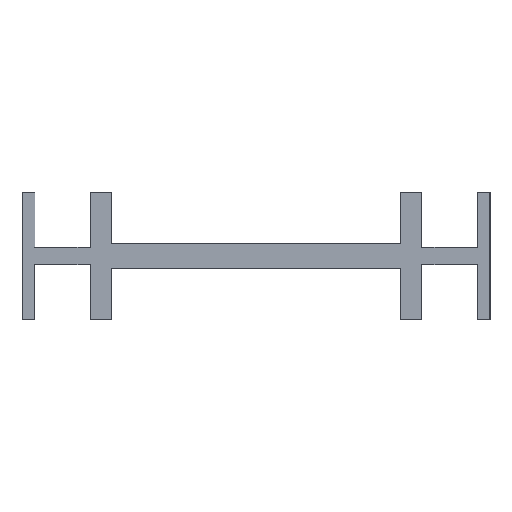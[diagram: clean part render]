
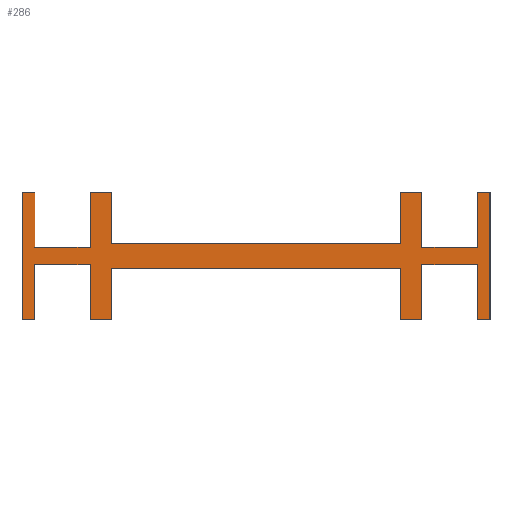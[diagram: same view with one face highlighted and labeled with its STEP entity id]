
A CAD part, left-side view. The second image highlights one B-rep face of the part: STEP entity #286.
In plain terms, the highlighted planar face has unit normal (-1, 0, 0).
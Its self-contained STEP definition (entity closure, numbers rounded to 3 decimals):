
#286=ADVANCED_FACE('',(#578),#579,.F.);
#578=FACE_OUTER_BOUND('',#861,.T.);
#579=PLANE('',#862);
#861=EDGE_LOOP('',(#1669,#1670,#1671,#1672,#1673,#1674,#1675,#1676,#1677,#1678,#1679,#1680,#1681,#1682,#1683,#1684,#1685,#1686,#1687,#1688,#1689,#1690,#1691,#1692,#1693,#1694,#1695,#1696,#1697,#1698,#1699,#1700));
#862=AXIS2_PLACEMENT_3D('',#1701,#1702,#1703);
#1669=ORIENTED_EDGE('',*,*,#1990,.T.);
#1670=ORIENTED_EDGE('',*,*,#1993,.T.);
#1671=ORIENTED_EDGE('',*,*,#2029,.T.);
#1672=ORIENTED_EDGE('',*,*,#2032,.T.);
#1673=ORIENTED_EDGE('',*,*,#2034,.T.);
#1674=ORIENTED_EDGE('',*,*,#2025,.T.);
#1675=ORIENTED_EDGE('',*,*,#1996,.F.);
#1676=ORIENTED_EDGE('',*,*,#2000,.F.);
#1677=ORIENTED_EDGE('',*,*,#2009,.F.);
#1678=ORIENTED_EDGE('',*,*,#2006,.F.);
#1679=ORIENTED_EDGE('',*,*,#2003,.F.);
#1680=ORIENTED_EDGE('',*,*,#2012,.F.);
#1681=ORIENTED_EDGE('',*,*,#2023,.F.);
#1682=ORIENTED_EDGE('',*,*,#2018,.F.);
#1683=ORIENTED_EDGE('',*,*,#2021,.F.);
#1684=ORIENTED_EDGE('',*,*,#2014,.F.);
#1685=ORIENTED_EDGE('',*,*,#1956,.F.);
#1686=ORIENTED_EDGE('',*,*,#1960,.F.);
#1687=ORIENTED_EDGE('',*,*,#1963,.F.);
#1688=ORIENTED_EDGE('',*,*,#1966,.F.);
#1689=ORIENTED_EDGE('',*,*,#1969,.F.);
#1690=ORIENTED_EDGE('',*,*,#1972,.T.);
#1691=ORIENTED_EDGE('',*,*,#1975,.T.);
#1692=ORIENTED_EDGE('',*,*,#1978,.T.);
#1693=ORIENTED_EDGE('',*,*,#1980,.T.);
#1694=ORIENTED_EDGE('',*,*,#1814,.T.);
#1695=ORIENTED_EDGE('',*,*,#1810,.T.);
#1696=ORIENTED_EDGE('',*,*,#1797,.T.);
#1697=ORIENTED_EDGE('',*,*,#1812,.F.);
#1698=ORIENTED_EDGE('',*,*,#1768,.T.);
#1699=ORIENTED_EDGE('',*,*,#1984,.T.);
#1700=ORIENTED_EDGE('',*,*,#1987,.T.);
#1701=CARTESIAN_POINT('',(0.0,26.75,7.5));
#1702=DIRECTION('',(1.0,0.,0.));
#1703=DIRECTION('',(0.,-1.0,0.0));
#1768=EDGE_CURVE('',#2110,#2137,#2139,.T.);
#1797=EDGE_CURVE('',#2183,#2181,#2184,.T.);
#1810=EDGE_CURVE('',#2198,#2183,#2201,.T.);
#1812=EDGE_CURVE('',#2110,#2181,#2203,.T.);
#1814=EDGE_CURVE('',#2205,#2198,#2206,.T.);
#1956=EDGE_CURVE('',#2423,#2425,#2426,.T.);
#1960=EDGE_CURVE('',#2429,#2423,#2431,.T.);
#1963=EDGE_CURVE('',#2433,#2429,#2435,.T.);
#1966=EDGE_CURVE('',#2437,#2433,#2439,.T.);
#1969=EDGE_CURVE('',#2441,#2437,#2443,.T.);
#1972=EDGE_CURVE('',#2441,#2445,#2447,.T.);
#1975=EDGE_CURVE('',#2445,#2449,#2451,.T.);
#1978=EDGE_CURVE('',#2449,#2453,#2455,.T.);
#1980=EDGE_CURVE('',#2453,#2205,#2457,.T.);
#1984=EDGE_CURVE('',#2137,#2460,#2462,.T.);
#1987=EDGE_CURVE('',#2460,#2464,#2466,.T.);
#1990=EDGE_CURVE('',#2464,#2468,#2470,.T.);
#1993=EDGE_CURVE('',#2468,#2472,#2474,.T.);
#1996=EDGE_CURVE('',#2476,#2478,#2479,.T.);
#2000=EDGE_CURVE('',#2482,#2476,#2484,.T.);
#2003=EDGE_CURVE('',#2486,#2488,#2489,.T.);
#2006=EDGE_CURVE('',#2488,#2492,#2493,.T.);
#2009=EDGE_CURVE('',#2492,#2482,#2496,.T.);
#2012=EDGE_CURVE('',#2498,#2486,#2500,.T.);
#2014=EDGE_CURVE('',#2425,#2502,#2503,.T.);
#2018=EDGE_CURVE('',#2506,#2508,#2509,.T.);
#2021=EDGE_CURVE('',#2502,#2506,#2512,.T.);
#2023=EDGE_CURVE('',#2508,#2498,#2514,.T.);
#2025=EDGE_CURVE('',#2516,#2478,#2517,.T.);
#2029=EDGE_CURVE('',#2472,#2520,#2522,.T.);
#2032=EDGE_CURVE('',#2520,#2524,#2526,.T.);
#2034=EDGE_CURVE('',#2524,#2516,#2528,.T.);
#2110=VERTEX_POINT('',#2632);
#2137=VERTEX_POINT('',#2665);
#2139=LINE('',#2668,#2669);
#2181=VERTEX_POINT('',#2723);
#2183=VERTEX_POINT('',#2725);
#2184=LINE('',#2726,#2727);
#2198=VERTEX_POINT('',#2744);
#2201=LINE('',#2748,#2749);
#2203=LINE('',#2751,#2752);
#2205=VERTEX_POINT('',#2754);
#2206=LINE('',#2755,#2756);
#2423=VERTEX_POINT('',#3068);
#2425=VERTEX_POINT('',#3071);
#2426=LINE('',#3072,#3073);
#2429=VERTEX_POINT('',#3077);
#2431=LINE('',#3080,#3081);
#2433=VERTEX_POINT('',#3083);
#2435=LINE('',#3086,#3087);
#2437=VERTEX_POINT('',#3089);
#2439=LINE('',#3092,#3093);
#2441=VERTEX_POINT('',#3095);
#2443=LINE('',#3098,#3099);
#2445=VERTEX_POINT('',#3101);
#2447=LINE('',#3104,#3105);
#2449=VERTEX_POINT('',#3107);
#2451=LINE('',#3110,#3111);
#2453=VERTEX_POINT('',#3113);
#2455=LINE('',#3116,#3117);
#2457=LINE('',#3119,#3120);
#2460=VERTEX_POINT('',#3123);
#2462=LINE('',#3126,#3127);
#2464=VERTEX_POINT('',#3129);
#2466=LINE('',#3132,#3133);
#2468=VERTEX_POINT('',#3135);
#2470=LINE('',#3138,#3139);
#2472=VERTEX_POINT('',#3141);
#2474=LINE('',#3144,#3145);
#2476=VERTEX_POINT('',#3147);
#2478=VERTEX_POINT('',#3150);
#2479=LINE('',#3151,#3152);
#2482=VERTEX_POINT('',#3156);
#2484=LINE('',#3159,#3160);
#2486=VERTEX_POINT('',#3162);
#2488=VERTEX_POINT('',#3165);
#2489=LINE('',#3166,#3167);
#2492=VERTEX_POINT('',#3171);
#2493=LINE('',#3172,#3173);
#2496=LINE('',#3177,#3178);
#2498=VERTEX_POINT('',#3180);
#2500=LINE('',#3183,#3184);
#2502=VERTEX_POINT('',#3186);
#2503=LINE('',#3187,#3188);
#2506=VERTEX_POINT('',#3192);
#2508=VERTEX_POINT('',#3195);
#2509=LINE('',#3196,#3197);
#2512=LINE('',#3201,#3202);
#2514=LINE('',#3204,#3205);
#2516=VERTEX_POINT('',#3207);
#2517=LINE('',#3208,#3209);
#2520=VERTEX_POINT('',#3213);
#2522=LINE('',#3216,#3217);
#2524=VERTEX_POINT('',#3219);
#2526=LINE('',#3222,#3223);
#2528=LINE('',#3225,#3226);
#2632=CARTESIAN_POINT('',(0.0,26.0,8.505));
#2665=CARTESIAN_POINT('',(0.0,26.0,15.0));
#2668=CARTESIAN_POINT('',(0.0,26.0,0.0));
#2669=VECTOR('',#3308,1.0);
#2723=CARTESIAN_POINT('',(0.0,25.995,8.505));
#2725=CARTESIAN_POINT('',(0.0,25.995,8.503));
#2726=CARTESIAN_POINT('',(0.0,25.995,8.503));
#2727=VECTOR('',#3348,1.0);
#2744=CARTESIAN_POINT('',(0.0,26.0,8.503));
#2748=CARTESIAN_POINT('',(0.0,26.0,8.503));
#2749=VECTOR('',#3365,1.0);
#2751=CARTESIAN_POINT('',(0.0,26.0,8.505));
#2752=VECTOR('',#3366,1.0);
#2754=CARTESIAN_POINT('',(0.0,26.0,8.5));
#2755=CARTESIAN_POINT('',(0.0,26.0,0.0));
#2756=VECTOR('',#3367,1.0);
#3068=CARTESIAN_POINT('',(0.0,-19.5,8.5));
#3071=CARTESIAN_POINT('',(0.0,-26.0,8.5));
#3072=CARTESIAN_POINT('',(0.0,-19.5,8.5));
#3073=VECTOR('',#3500,1.0);
#3077=CARTESIAN_POINT('',(0.0,-19.5,15.0));
#3080=CARTESIAN_POINT('',(0.0,-19.5,15.0));
#3081=VECTOR('',#3503,1.0);
#3083=CARTESIAN_POINT('',(0.0,-17.0,15.0));
#3086=CARTESIAN_POINT('',(0.0,-17.0,15.0));
#3087=VECTOR('',#3505,1.0);
#3089=CARTESIAN_POINT('',(0.0,-17.0,9.0));
#3092=CARTESIAN_POINT('',(0.0,-17.0,0.0));
#3093=VECTOR('',#3507,1.0);
#3095=CARTESIAN_POINT('',(0.0,17.0,9.0));
#3098=CARTESIAN_POINT('',(0.0,17.0,9.0));
#3099=VECTOR('',#3509,1.0);
#3101=CARTESIAN_POINT('',(0.0,17.0,15.0));
#3104=CARTESIAN_POINT('',(0.0,17.0,0.0));
#3105=VECTOR('',#3511,1.0);
#3107=CARTESIAN_POINT('',(0.0,19.5,15.0));
#3110=CARTESIAN_POINT('',(0.0,17.0,15.0));
#3111=VECTOR('',#3513,1.0);
#3113=CARTESIAN_POINT('',(0.0,19.5,8.5));
#3116=CARTESIAN_POINT('',(0.0,19.5,15.0));
#3117=VECTOR('',#3515,1.0);
#3119=CARTESIAN_POINT('',(0.0,19.5,8.5));
#3120=VECTOR('',#3516,1.0);
#3123=CARTESIAN_POINT('',(0.0,27.5,15.0));
#3126=CARTESIAN_POINT('',(0.0,26.0,15.0));
#3127=VECTOR('',#3518,1.0);
#3129=CARTESIAN_POINT('',(0.0,27.5,0.0));
#3132=CARTESIAN_POINT('',(0.0,27.5,15.0));
#3133=VECTOR('',#3520,1.0);
#3135=CARTESIAN_POINT('',(0.0,26.0,0.0));
#3138=CARTESIAN_POINT('',(0.0,27.5,0.0));
#3139=VECTOR('',#3522,1.0);
#3141=CARTESIAN_POINT('',(0.0,26.0,6.5));
#3144=CARTESIAN_POINT('',(0.0,26.0,0.0));
#3145=VECTOR('',#3524,1.0);
#3147=CARTESIAN_POINT('',(0.0,-17.0,6.0));
#3150=CARTESIAN_POINT('',(0.0,17.0,6.0));
#3151=CARTESIAN_POINT('',(0.0,-17.0,6.0));
#3152=VECTOR('',#3526,1.0);
#3156=CARTESIAN_POINT('',(0.0,-17.0,0.0));
#3159=CARTESIAN_POINT('',(0.0,-17.0,0.0));
#3160=VECTOR('',#3529,1.0);
#3162=CARTESIAN_POINT('',(0.0,-26.0,6.5));
#3165=CARTESIAN_POINT('',(0.0,-19.5,6.5));
#3166=CARTESIAN_POINT('',(0.0,-26.0,6.5));
#3167=VECTOR('',#3531,1.0);
#3171=CARTESIAN_POINT('',(0.0,-19.5,0.0));
#3172=CARTESIAN_POINT('',(0.0,-19.5,15.0));
#3173=VECTOR('',#3533,1.0);
#3177=CARTESIAN_POINT('',(0.0,-19.5,0.0));
#3178=VECTOR('',#3535,1.0);
#3180=CARTESIAN_POINT('',(0.0,-26.0,0.0));
#3183=CARTESIAN_POINT('',(0.0,-26.0,0.0));
#3184=VECTOR('',#3537,1.0);
#3186=CARTESIAN_POINT('',(0.0,-26.0,15.0));
#3187=CARTESIAN_POINT('',(0.0,-26.0,0.0));
#3188=VECTOR('',#3538,1.0);
#3192=CARTESIAN_POINT('',(0.0,-27.5,15.0));
#3195=CARTESIAN_POINT('',(0.0,-27.5,0.0));
#3196=CARTESIAN_POINT('',(0.0,-27.5,15.0));
#3197=VECTOR('',#3541,1.0);
#3201=CARTESIAN_POINT('',(0.0,-26.0,15.0));
#3202=VECTOR('',#3543,1.0);
#3204=CARTESIAN_POINT('',(0.0,-27.5,0.0));
#3205=VECTOR('',#3544,1.0);
#3207=CARTESIAN_POINT('',(0.0,17.0,0.0));
#3208=CARTESIAN_POINT('',(0.0,17.0,0.0));
#3209=VECTOR('',#3545,1.0);
#3213=CARTESIAN_POINT('',(0.0,19.5,6.5));
#3216=CARTESIAN_POINT('',(0.0,26.0,6.5));
#3217=VECTOR('',#3548,1.0);
#3219=CARTESIAN_POINT('',(0.0,19.5,0.0));
#3222=CARTESIAN_POINT('',(0.0,19.5,15.0));
#3223=VECTOR('',#3550,1.0);
#3225=CARTESIAN_POINT('',(0.0,19.5,0.0));
#3226=VECTOR('',#3551,1.0);
#3308=DIRECTION('',(0.,0.0,1.0));
#3348=DIRECTION('',(0.0,0.,1.0));
#3365=DIRECTION('',(0.0,-1.0,0.));
#3366=DIRECTION('',(0.0,-1.0,0.));
#3367=DIRECTION('',(0.,0.0,1.0));
#3500=DIRECTION('',(0.,-1.0,0.0));
#3503=DIRECTION('',(0.,0.0,-1.0));
#3505=DIRECTION('',(0.,-1.0,0.0));
#3507=DIRECTION('',(0.,0.0,1.0));
#3509=DIRECTION('',(0.,-1.0,0.0));
#3511=DIRECTION('',(0.,0.0,1.0));
#3513=DIRECTION('',(0.,1.0,0.0));
#3515=DIRECTION('',(0.,0.0,-1.0));
#3516=DIRECTION('',(0.,1.0,0.0));
#3518=DIRECTION('',(0.,1.0,0.0));
#3520=DIRECTION('',(0.,0.0,-1.0));
#3522=DIRECTION('',(0.,-1.0,0.0));
#3524=DIRECTION('',(0.,0.0,1.0));
#3526=DIRECTION('',(0.,1.0,0.0));
#3529=DIRECTION('',(0.,0.0,1.0));
#3531=DIRECTION('',(0.,1.0,0.0));
#3533=DIRECTION('',(0.,0.0,-1.0));
#3535=DIRECTION('',(0.,1.0,0.0));
#3537=DIRECTION('',(0.,0.0,1.0));
#3538=DIRECTION('',(0.,0.0,1.0));
#3541=DIRECTION('',(0.,0.0,-1.0));
#3543=DIRECTION('',(0.,-1.0,0.0));
#3544=DIRECTION('',(0.,1.0,0.0));
#3545=DIRECTION('',(0.,0.0,1.0));
#3548=DIRECTION('',(0.,-1.0,0.0));
#3550=DIRECTION('',(0.,0.0,-1.0));
#3551=DIRECTION('',(0.,-1.0,0.0));
